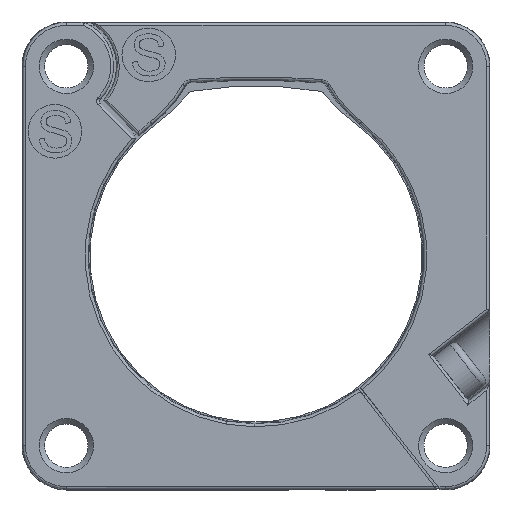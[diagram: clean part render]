
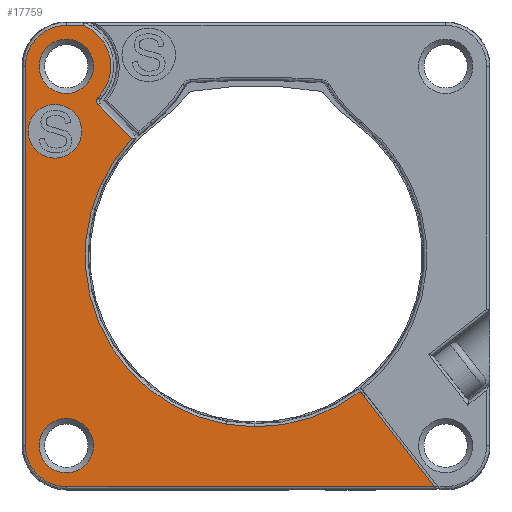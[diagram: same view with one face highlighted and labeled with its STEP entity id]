
A CAD part, left-side view. The second image highlights one B-rep face of the part: STEP entity #17759.
In plain terms, the highlighted planar face has unit normal (-1, 0, 0).
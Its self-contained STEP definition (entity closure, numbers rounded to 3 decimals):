
#2293=CARTESIAN_POINT('',(-6.75,-7.763,-10.099));
#2294=VERTEX_POINT('',#2293);
#2308=CARTESIAN_POINT('',(-6.75,-13.309,-17.197));
#2309=VERTEX_POINT('',#2308);
#2310=CARTESIAN_POINT('',(-6.75,-7.763,-10.099));
#2311=DIRECTION('',(0.0,-0.616,-0.788));
#2312=VECTOR('',#2311,9.007);
#2313=LINE('',#2310,#2312);
#2314=EDGE_CURVE('',#2309,#2294,#2313,.F.);
#9715=CARTESIAN_POINT('',(-6.75,14.142,-12.121));
#9716=VERTEX_POINT('',#9715);
#9717=CARTESIAN_POINT('',(-6.75,14.142,-14.142));
#9718=DIRECTION('',(-1.0,0.0,0.0));
#9719=DIRECTION('',(0.0,0.0,-1.0));
#9720=AXIS2_PLACEMENT_3D('',#9717,#9718,#9719);
#9721=CIRCLE('',#9720,2.021);
#9722=EDGE_CURVE('',#9716,#9716,#9721,.T.);
#9823=CARTESIAN_POINT('',(-6.75,14.142,16.163));
#9824=VERTEX_POINT('',#9823);
#9825=CARTESIAN_POINT('',(-6.75,14.142,14.142));
#9826=DIRECTION('',(-1.0,0.0,0.0));
#9827=DIRECTION('',(0.0,0.0,-1.0));
#9828=AXIS2_PLACEMENT_3D('',#9825,#9826,#9827);
#9829=CIRCLE('',#9828,2.021);
#9830=EDGE_CURVE('',#9824,#9824,#9829,.T.);
#12577=CARTESIAN_POINT('',(-6.75,14.142,-17.197));
#12578=VERTEX_POINT('',#12577);
#12579=CARTESIAN_POINT('',(-6.75,-13.309,-17.197));
#12580=DIRECTION('',(0.0,1.0,0.0));
#12581=VECTOR('',#12580,27.451);
#12582=LINE('',#12579,#12581);
#12583=EDGE_CURVE('',#2309,#12578,#12582,.T.);
#12607=CARTESIAN_POINT('',(-6.75,17.197,-14.142));
#12608=VERTEX_POINT('',#12607);
#12609=CARTESIAN_POINT('',(-6.75,14.142,-14.142));
#12610=DIRECTION('',(1.0,0.0,0.0));
#12611=DIRECTION('',(0.0,0.707,-0.707));
#12612=AXIS2_PLACEMENT_3D('',#12609,#12610,#12611);
#12613=CIRCLE('',#12612,3.055);
#12614=EDGE_CURVE('',#12578,#12608,#12613,.T.);
#12633=CARTESIAN_POINT('',(-6.75,17.197,14.142));
#12634=VERTEX_POINT('',#12633);
#12635=CARTESIAN_POINT('',(-6.75,17.197,-14.142));
#12636=DIRECTION('',(0.0,0.0,1.0));
#12637=VECTOR('',#12636,28.284);
#12638=LINE('',#12635,#12637);
#12639=EDGE_CURVE('',#12608,#12634,#12638,.T.);
#12659=CARTESIAN_POINT('',(-6.75,9.254,8.754));
#12660=VERTEX_POINT('',#12659);
#12678=CARTESIAN_POINT('',(-6.75,0.,0.0));
#12679=DIRECTION('',(-1.,0.0,0.0));
#12680=DIRECTION('',(0.0,0.747,-0.664));
#12681=AXIS2_PLACEMENT_3D('',#12678,#12679,#12680);
#12682=CIRCLE('',#12681,12.738);
#12683=EDGE_CURVE('',#12660,#2294,#12682,.T.);
#12694=CARTESIAN_POINT('',(-6.75,14.142,17.197));
#12695=VERTEX_POINT('',#12694);
#12696=CARTESIAN_POINT('',(-6.75,14.142,14.142));
#12697=DIRECTION('',(1.0,0.0,0.0));
#12698=DIRECTION('',(0.0,0.707,0.707));
#12699=AXIS2_PLACEMENT_3D('',#12696,#12697,#12698);
#12700=CIRCLE('',#12699,3.055);
#12701=EDGE_CURVE('',#12634,#12695,#12700,.T.);
#12720=CARTESIAN_POINT('',(-6.75,11.766,11.267));
#12721=VERTEX_POINT('',#12720);
#12729=CARTESIAN_POINT('',(-6.75,11.766,11.267));
#12730=DIRECTION('',(0.0,-0.707,-0.707));
#12731=VECTOR('',#12730,3.554);
#12732=LINE('',#12729,#12731);
#12733=EDGE_CURVE('',#12721,#12660,#12732,.T.);
#12744=CARTESIAN_POINT('',(-6.75,12.859,17.197));
#12745=VERTEX_POINT('',#12744);
#12746=CARTESIAN_POINT('',(-6.75,14.142,17.197));
#12747=DIRECTION('',(0.0,-1.0,0.0));
#12748=VECTOR('',#12747,1.284);
#12749=LINE('',#12746,#12748);
#12750=EDGE_CURVE('',#12695,#12745,#12749,.T.);
#12805=CARTESIAN_POINT('',(-6.75,11.77,11.829));
#12806=VERTEX_POINT('',#12805);
#12814=CARTESIAN_POINT('',(-6.75,11.77,11.829));
#12815=CARTESIAN_POINT('',(-6.75,11.842,11.755));
#12816=CARTESIAN_POINT('',(-6.75,11.926,11.547));
#12817=CARTESIAN_POINT('',(-6.75,11.839,11.34));
#12818=CARTESIAN_POINT('',(-6.75,11.766,11.267));
#12819=B_SPLINE_CURVE_WITH_KNOTS('',3,(#12814,#12815,#12816,#12817,#12818),.UNSPECIFIED.,.F.,.U.,(4,1,4),(0.0,0.031,0.062),.UNSPECIFIED.);
#12820=EDGE_CURVE('',#12806,#12721,#12819,.T.);
#12832=CARTESIAN_POINT('',(-6.75,14.142,14.142));
#12833=DIRECTION('',(1.0,0.0,0.0));
#12834=DIRECTION('',(0.0,-0.979,0.204));
#12835=AXIS2_PLACEMENT_3D('',#12832,#12833,#12834);
#12836=CIRCLE('',#12835,3.313);
#12837=EDGE_CURVE('',#12745,#12806,#12836,.T.);
#13017=CARTESIAN_POINT('',(-6.75,15.,11.3));
#13018=VERTEX_POINT('',#13017);
#13019=CARTESIAN_POINT('',(-6.75,15.,9.3));
#13020=DIRECTION('',(1.0,0.0,0.0));
#13021=DIRECTION('',(0.0,0.0,-1.0));
#13022=AXIS2_PLACEMENT_3D('',#13019,#13020,#13021);
#13023=CIRCLE('',#13022,2.0);
#13024=EDGE_CURVE('',#13018,#13018,#13023,.T.);
#17733=CARTESIAN_POINT('',(-6.75,0.,0.));
#17734=DIRECTION('',(1.0,0.0,0.0));
#17735=DIRECTION('',(0.0,0.0,-1.0));
#17736=AXIS2_PLACEMENT_3D('',#17733,#17734,#17735);
#17737=PLANE('',#17736);
#17738=ORIENTED_EDGE('',*,*,#12683,.F.);
#17739=ORIENTED_EDGE('',*,*,#12733,.F.);
#17740=ORIENTED_EDGE('',*,*,#12820,.F.);
#17741=ORIENTED_EDGE('',*,*,#12837,.F.);
#17742=ORIENTED_EDGE('',*,*,#12750,.F.);
#17743=ORIENTED_EDGE('',*,*,#12701,.F.);
#17744=ORIENTED_EDGE('',*,*,#12639,.F.);
#17745=ORIENTED_EDGE('',*,*,#12614,.F.);
#17746=ORIENTED_EDGE('',*,*,#12583,.F.);
#17747=ORIENTED_EDGE('',*,*,#2314,.T.);
#17748=EDGE_LOOP('',(#17738,#17739,#17740,#17741,#17742,#17743,#17744,#17745,#17746,#17747));
#17749=FACE_OUTER_BOUND('',#17748,.T.);
#17750=ORIENTED_EDGE('',*,*,#13024,.T.);
#17751=EDGE_LOOP('',(#17750));
#17752=FACE_BOUND('',#17751,.T.);
#17753=ORIENTED_EDGE('',*,*,#9722,.F.);
#17754=EDGE_LOOP('',(#17753));
#17755=FACE_BOUND('',#17754,.T.);
#17756=ORIENTED_EDGE('',*,*,#9830,.F.);
#17757=EDGE_LOOP('',(#17756));
#17758=FACE_BOUND('',#17757,.T.);
#17759=ADVANCED_FACE('',(#17749,#17752,#17755,#17758),#17737,.F.);
